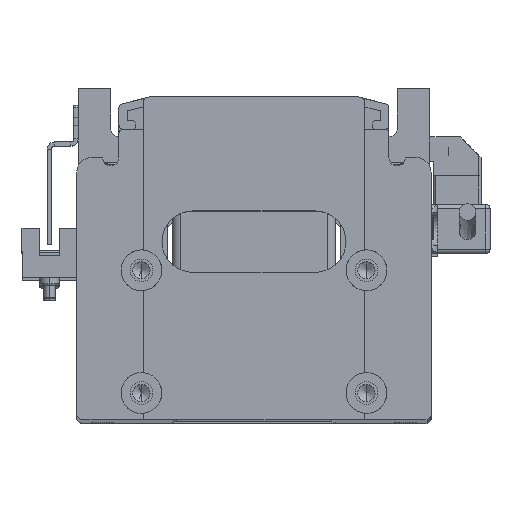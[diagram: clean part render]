
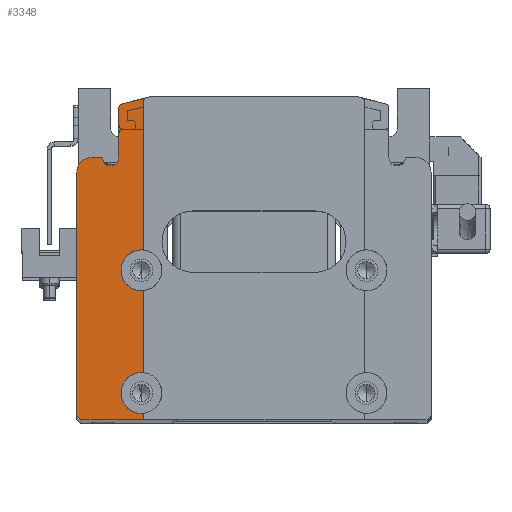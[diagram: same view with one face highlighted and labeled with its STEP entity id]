
A CAD part, top view. The second image highlights one B-rep face of the part: STEP entity #3348.
In plain terms, the highlighted planar face has unit normal (0, 0, 1).
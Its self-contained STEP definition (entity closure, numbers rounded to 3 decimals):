
#80 = CARTESIAN_POINT ( 'NONE',  ( -27., 38.219, 12.5 ) ) ;
#592 = CARTESIAN_POINT ( 'NONE',  ( -43.3, -39.5, 12.5 ) ) ;
#636 = AXIS2_PLACEMENT_3D ( 'NONE', #25782, #12263, #5539 ) ;
#639 = ORIENTED_EDGE ( 'NONE', *, *, #41458, .F. ) ;
#918 = CARTESIAN_POINT ( 'NONE',  ( -27., -37.975, 12.5 ) ) ;
#959 = EDGE_CURVE ( 'NONE', #19794, #35882, #3164, .T. ) ;
#1190 = EDGE_CURVE ( 'NONE', #33014, #28498, #2055, .T. ) ;
#1721 = CARTESIAN_POINT ( 'NONE',  ( 0., 0., 12.5 ) ) ;
#2055 = CIRCLE ( 'NONE', #636, 5. ) ;
#2160 = CARTESIAN_POINT ( 'NONE',  ( -26., 38.219, 12.5 ) ) ;
#2929 = VERTEX_POINT ( 'NONE', #13784 ) ;
#3164 = LINE ( 'NONE', #37237, #39518 ) ;
#3195 = EDGE_CURVE ( 'NONE', #5733, #15943, #35136, .T. ) ;
#3287 = CARTESIAN_POINT ( 'NONE',  ( -32.5, -33., 12.5 ) ) ;
#3324 = LINE ( 'NONE', #37907, #22370 ) ;
#3348 = ADVANCED_FACE ( 'NONE', ( #29353 ), #21703, .T. ) ;
#3360 = VERTEX_POINT ( 'NONE', #15513 ) ;
#3561 = VECTOR ( 'NONE', #17304, 1000. ) ;
#3914 = DIRECTION ( 'NONE',  ( 0., 0., 1. ) ) ;
#4231 = VERTEX_POINT ( 'NONE', #3287 ) ;
#4352 = EDGE_CURVE ( 'NONE', #35882, #15943, #33534, .T. ) ;
#4367 = AXIS2_PLACEMENT_3D ( 'NONE', #28255, #21912, #8334 ) ;
#4430 = ORIENTED_EDGE ( 'NONE', *, *, #959, .T. ) ;
#4475 = EDGE_CURVE ( 'NONE', #2929, #40716, #23536, .T. ) ;
#4500 = LINE ( 'NONE', #592, #31442 ) ;
#4636 = AXIS2_PLACEMENT_3D ( 'NONE', #1721, #5112, #25488 ) ;
#4791 = LINE ( 'NONE', #26124, #12785 ) ;
#5016 = EDGE_CURVE ( 'NONE', #19844, #8235, #30543, .T. ) ;
#5112 = DIRECTION ( 'NONE',  ( 0., 0., 1. ) ) ;
#5539 = DIRECTION ( 'NONE',  ( 1., 0., 0. ) ) ;
#5733 = VERTEX_POINT ( 'NONE', #41600 ) ;
#5950 = CARTESIAN_POINT ( 'NONE',  ( -43.3, 21., 12.5 ) ) ;
#6270 = ORIENTED_EDGE ( 'NONE', *, *, #24556, .F. ) ;
#6782 = CARTESIAN_POINT ( 'NONE',  ( -27.5, -3., 12.5 ) ) ;
#7277 = ORIENTED_EDGE ( 'NONE', *, *, #10681, .F. ) ;
#7560 = ORIENTED_EDGE ( 'NONE', *, *, #4352, .T. ) ;
#7752 = CARTESIAN_POINT ( 'NONE',  ( -32., 36.719, 12.5 ) ) ;
#8074 = EDGE_CURVE ( 'NONE', #33014, #19651, #3324, .T. ) ;
#8235 = VERTEX_POINT ( 'NONE', #918 ) ;
#8329 = AXIS2_PLACEMENT_3D ( 'NONE', #13928, #27751, #41062 ) ;
#8334 = DIRECTION ( 'NONE',  ( 1., 0., 0. ) ) ;
#8523 = DIRECTION ( 'NONE',  ( 1., 0., 0. ) ) ;
#10574 = EDGE_CURVE ( 'NONE', #3360, #5733, #19552, .T. ) ;
#10681 = EDGE_CURVE ( 'NONE', #4231, #8235, #35839, .T. ) ;
#11342 = CARTESIAN_POINT ( 'NONE',  ( -27.5, -33., 12.5 ) ) ;
#12263 = DIRECTION ( 'NONE',  ( 0., 0., 1. ) ) ;
#12785 = VECTOR ( 'NONE', #39035, 1000. ) ;
#13028 = VECTOR ( 'NONE', #37988, 1000. ) ;
#13352 = EDGE_LOOP ( 'NONE', ( #4430, #7560, #30753, #39148, #639, #18924, #23988, #24520, #37466, #34371, #7277, #6270, #36169, #13458, #15617, #25590, #15576 ) ) ;
#13458 = ORIENTED_EDGE ( 'NONE', *, *, #33029, .F. ) ;
#13784 = CARTESIAN_POINT ( 'NONE',  ( -39.8, 24.5, 12.5 ) ) ;
#13928 = CARTESIAN_POINT ( 'NONE',  ( -27.5, -33., 12.5 ) ) ;
#14001 = LINE ( 'NONE', #27536, #35555 ) ;
#14176 = DIRECTION ( 'NONE',  ( 0., 0., 1. ) ) ;
#14891 = CIRCLE ( 'NONE', #8329, 5. ) ;
#15111 = LINE ( 'NONE', #42329, #26678 ) ;
#15513 = CARTESIAN_POINT ( 'NONE',  ( -37., 24.5, 12.5 ) ) ;
#15576 = ORIENTED_EDGE ( 'NONE', *, *, #21295, .T. ) ;
#15611 = CARTESIAN_POINT ( 'NONE',  ( -27., -7.975, 12.5 ) ) ;
#15617 = ORIENTED_EDGE ( 'NONE', *, *, #1190, .F. ) ;
#15742 = CARTESIAN_POINT ( 'NONE',  ( -43.3, -38.5, 12.5 ) ) ;
#15811 = CARTESIAN_POINT ( 'NONE',  ( -33., 36.719, 12.5 ) ) ;
#15943 = VERTEX_POINT ( 'NONE', #15811 ) ;
#17032 = DIRECTION ( 'NONE',  ( 0., 0., 1. ) ) ;
#17304 = DIRECTION ( 'NONE',  ( 0., 1., 0. ) ) ;
#17910 = EDGE_CURVE ( 'NONE', #27142, #38029, #4791, .T. ) ;
#18510 = EDGE_CURVE ( 'NONE', #40716, #39059, #23757, .T. ) ;
#18924 = ORIENTED_EDGE ( 'NONE', *, *, #4475, .T. ) ;
#19076 = VECTOR ( 'NONE', #33478, 1000. ) ;
#19552 = CIRCLE ( 'NONE', #36800, 2. ) ;
#19651 = VERTEX_POINT ( 'NONE', #80 ) ;
#19718 = CARTESIAN_POINT ( 'NONE',  ( -27., -28.025, 12.5 ) ) ;
#19794 = VERTEX_POINT ( 'NONE', #36629 ) ;
#19844 = VERTEX_POINT ( 'NONE', #35048 ) ;
#20147 = AXIS2_PLACEMENT_3D ( 'NONE', #2160, #26715, #39901 ) ;
#20970 = DIRECTION ( 'NONE',  ( 1., 0., 0. ) ) ;
#21276 = DIRECTION ( 'NONE',  ( 1., 0., 0. ) ) ;
#21295 = EDGE_CURVE ( 'NONE', #19651, #19794, #35832, .T. ) ;
#21703 = PLANE ( 'NONE',  #4636 ) ;
#21912 = DIRECTION ( 'NONE',  ( 0., 0., 1. ) ) ;
#22370 = VECTOR ( 'NONE', #27506, 1000. ) ;
#22726 = CARTESIAN_POINT ( 'NONE',  ( -27., 1.975, 12.5 ) ) ;
#22945 = VERTEX_POINT ( 'NONE', #43131 ) ;
#23138 = EDGE_CURVE ( 'NONE', #22945, #19844, #4500, .T. ) ;
#23536 = CIRCLE ( 'NONE', #4367, 3.5 ) ;
#23757 = LINE ( 'NONE', #40242, #19076 ) ;
#23918 = AXIS2_PLACEMENT_3D ( 'NONE', #7752, #14176, #38068 ) ;
#23988 = ORIENTED_EDGE ( 'NONE', *, *, #18510, .T. ) ;
#24168 = CARTESIAN_POINT ( 'NONE',  ( -35., 24.5, 12.5 ) ) ;
#24520 = ORIENTED_EDGE ( 'NONE', *, *, #26839, .T. ) ;
#24556 = EDGE_CURVE ( 'NONE', #27142, #4231, #14891, .T. ) ;
#25488 = DIRECTION ( 'NONE',  ( 1., 0., 0. ) ) ;
#25590 = ORIENTED_EDGE ( 'NONE', *, *, #8074, .T. ) ;
#25782 = CARTESIAN_POINT ( 'NONE',  ( -27.5, -3., 12.5 ) ) ;
#26124 = CARTESIAN_POINT ( 'NONE',  ( -27., 39.5, 12.5 ) ) ;
#26678 = VECTOR ( 'NONE', #8523, 1000. ) ;
#26715 = DIRECTION ( 'NONE',  ( 0., 0., -1. ) ) ;
#26839 = EDGE_CURVE ( 'NONE', #39059, #22945, #14001, .T. ) ;
#27121 = DIRECTION ( 'NONE',  ( -0.97, -0.243, 0. ) ) ;
#27142 = VERTEX_POINT ( 'NONE', #19718 ) ;
#27506 = DIRECTION ( 'NONE',  ( 0., 1., 0. ) ) ;
#27536 = CARTESIAN_POINT ( 'NONE',  ( -40.9, -40.9, 12.5 ) ) ;
#27751 = DIRECTION ( 'NONE',  ( 0., 0., 1. ) ) ;
#28255 = CARTESIAN_POINT ( 'NONE',  ( -39.8, 21., 12.5 ) ) ;
#28498 = VERTEX_POINT ( 'NONE', #38820 ) ;
#29353 = FACE_OUTER_BOUND ( 'NONE', #13352, .T. ) ;
#29960 = DIRECTION ( 'NONE',  ( 1., 0., 0. ) ) ;
#30543 = LINE ( 'NONE', #34314, #3561 ) ;
#30734 = CARTESIAN_POINT ( 'NONE',  ( -32.243, 37.689, 12.5 ) ) ;
#30753 = ORIENTED_EDGE ( 'NONE', *, *, #3195, .F. ) ;
#30888 = DIRECTION ( 'NONE',  ( 0.707, -0.707, 0. ) ) ;
#31442 = VECTOR ( 'NONE', #21276, 1000. ) ;
#31667 = DIRECTION ( 'NONE',  ( 0., 0., 1. ) ) ;
#33014 = VERTEX_POINT ( 'NONE', #22726 ) ;
#33029 = EDGE_CURVE ( 'NONE', #28498, #38029, #39422, .T. ) ;
#33478 = DIRECTION ( 'NONE',  ( 0., -1., 0. ) ) ;
#33534 = CIRCLE ( 'NONE', #23918, 1. ) ;
#34314 = CARTESIAN_POINT ( 'NONE',  ( -27., 39.5, 12.5 ) ) ;
#34371 = ORIENTED_EDGE ( 'NONE', *, *, #5016, .T. ) ;
#35048 = CARTESIAN_POINT ( 'NONE',  ( -27., -39.5, 12.5 ) ) ;
#35136 = LINE ( 'NONE', #41628, #13028 ) ;
#35555 = VECTOR ( 'NONE', #30888, 1000. ) ;
#35832 = CIRCLE ( 'NONE', #20147, 1. ) ;
#35839 = CIRCLE ( 'NONE', #38172, 5. ) ;
#35882 = VERTEX_POINT ( 'NONE', #30734 ) ;
#36169 = ORIENTED_EDGE ( 'NONE', *, *, #17910, .T. ) ;
#36629 = CARTESIAN_POINT ( 'NONE',  ( -26.243, 39.189, 12.5 ) ) ;
#36800 = AXIS2_PLACEMENT_3D ( 'NONE', #24168, #3914, #20970 ) ;
#37237 = CARTESIAN_POINT ( 'NONE',  ( -10.765, 43.059, 12.5 ) ) ;
#37466 = ORIENTED_EDGE ( 'NONE', *, *, #23138, .T. ) ;
#37907 = CARTESIAN_POINT ( 'NONE',  ( -27., 39.5, 12.5 ) ) ;
#37988 = DIRECTION ( 'NONE',  ( 0., 1., 0. ) ) ;
#38029 = VERTEX_POINT ( 'NONE', #15611 ) ;
#38068 = DIRECTION ( 'NONE',  ( 1., 0., 0. ) ) ;
#38172 = AXIS2_PLACEMENT_3D ( 'NONE', #11342, #31667, #38525 ) ;
#38525 = DIRECTION ( 'NONE',  ( 1., 0., 0. ) ) ;
#38820 = CARTESIAN_POINT ( 'NONE',  ( -32.5, -3., 12.5 ) ) ;
#39035 = DIRECTION ( 'NONE',  ( 0., 1., 0. ) ) ;
#39059 = VERTEX_POINT ( 'NONE', #15742 ) ;
#39148 = ORIENTED_EDGE ( 'NONE', *, *, #10574, .F. ) ;
#39422 = CIRCLE ( 'NONE', #43549, 5. ) ;
#39518 = VECTOR ( 'NONE', #27121, 1000. ) ;
#39901 = DIRECTION ( 'NONE',  ( 1., 0., 0. ) ) ;
#40242 = CARTESIAN_POINT ( 'NONE',  ( -43.3, 39.5, 12.5 ) ) ;
#40716 = VERTEX_POINT ( 'NONE', #5950 ) ;
#41062 = DIRECTION ( 'NONE',  ( 1., 0., 0. ) ) ;
#41458 = EDGE_CURVE ( 'NONE', #2929, #3360, #15111, .T. ) ;
#41600 = CARTESIAN_POINT ( 'NONE',  ( -33., 24.5, 12.5 ) ) ;
#41628 = CARTESIAN_POINT ( 'NONE',  ( -33., 0., 12.5 ) ) ;
#42329 = CARTESIAN_POINT ( 'NONE',  ( 0., 24.5, 12.5 ) ) ;
#43131 = CARTESIAN_POINT ( 'NONE',  ( -42.3, -39.5, 12.5 ) ) ;
#43549 = AXIS2_PLACEMENT_3D ( 'NONE', #6782, #17032, #29960 ) ;
